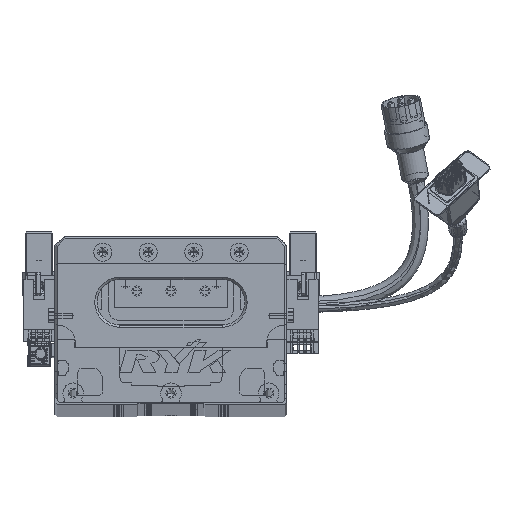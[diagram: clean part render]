
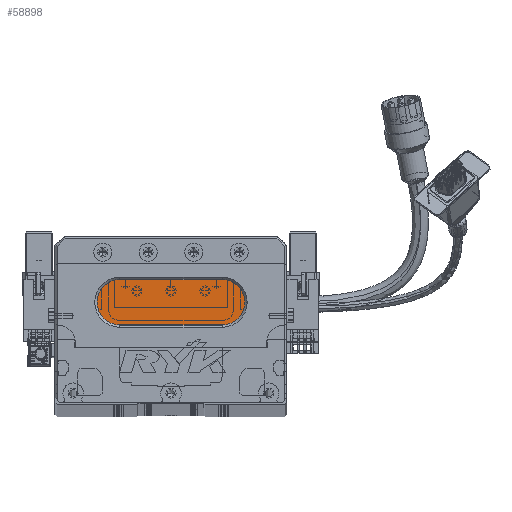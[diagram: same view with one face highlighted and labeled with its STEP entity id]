
A CAD part, top view. The second image highlights one B-rep face of the part: STEP entity #58898.
In plain terms, the highlighted planar face has unit normal (0, 0, 1) as drawn and (0, 0, -1) by its records, which use the part's own axes.
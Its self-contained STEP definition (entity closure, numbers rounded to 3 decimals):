
#264 = CARTESIAN_POINT ( 'NONE',  ( 18.5, 44., 13. ) ) ;
#323 = EDGE_LOOP ( 'NONE', ( #29394, #74563, #49118, #91849, #70341 ) ) ;
#1188 = CARTESIAN_POINT ( 'NONE',  ( 28.5, 54., 13. ) ) ;
#4758 = CARTESIAN_POINT ( 'NONE',  ( 73.5, 54., 13. ) ) ;
#5972 = VERTEX_POINT ( 'NONE', #23706 ) ;
#10723 = CIRCLE ( 'NONE', #30573, 10. ) ;
#15126 = VERTEX_POINT ( 'NONE', #17340 ) ;
#17024 = PLANE ( 'NONE',  #77251 ) ;
#17340 = CARTESIAN_POINT ( 'NONE',  ( 73.5, 34., 13. ) ) ;
#18327 = CIRCLE ( 'NONE', #59986, 10. ) ;
#20703 = DIRECTION ( 'NONE',  ( 0., 0., -1. ) ) ;
#21560 = LINE ( 'NONE', #42626, #75852 ) ;
#23706 = CARTESIAN_POINT ( 'NONE',  ( 28.5, 34., 13. ) ) ;
#24289 = FACE_OUTER_BOUND ( 'NONE', #323, .T. ) ;
#29289 = EDGE_CURVE ( 'NONE', #5972, #66964, #18327, .T. ) ;
#29394 = ORIENTED_EDGE ( 'NONE', *, *, #60890, .T. ) ;
#30573 = AXIS2_PLACEMENT_3D ( 'NONE', #62212, #20703, #91241 ) ;
#30908 = CIRCLE ( 'NONE', #32744, 10. ) ;
#32744 = AXIS2_PLACEMENT_3D ( 'NONE', #72479, #71802, #43337 ) ;
#34873 = EDGE_CURVE ( 'NONE', #61754, #80881, #21560, .T. ) ;
#37463 = DIRECTION ( 'NONE',  ( -1., 0., 0. ) ) ;
#38069 = DIRECTION ( 'NONE',  ( 0., 0., -1. ) ) ;
#42626 = CARTESIAN_POINT ( 'NONE',  ( 73.5, 54., 13. ) ) ;
#43337 = DIRECTION ( 'NONE',  ( -1., 0., 0. ) ) ;
#49118 = ORIENTED_EDGE ( 'NONE', *, *, #29289, .T. ) ;
#49838 = LINE ( 'NONE', #81543, #74177 ) ;
#55348 = CARTESIAN_POINT ( 'NONE',  ( 28.5, 44., 13. ) ) ;
#56573 = DIRECTION ( 'NONE',  ( 0., 0., -1. ) ) ;
#58327 = EDGE_CURVE ( 'NONE', #66964, #61754, #30908, .T. ) ;
#58833 = CARTESIAN_POINT ( 'NONE',  ( 73.5, 44., 13. ) ) ;
#58898 = ADVANCED_FACE ( 'NONE', ( #24289 ), #17024, .T. ) ;
#59986 = AXIS2_PLACEMENT_3D ( 'NONE', #55348, #56573, #91842 ) ;
#60890 = EDGE_CURVE ( 'NONE', #80881, #15126, #10723, .T. ) ;
#61754 = VERTEX_POINT ( 'NONE', #1188 ) ;
#62212 = CARTESIAN_POINT ( 'NONE',  ( 73.5, 44., 13. ) ) ;
#66964 = VERTEX_POINT ( 'NONE', #264 ) ;
#67039 = DIRECTION ( 'NONE',  ( -1., 0., 0. ) ) ;
#70341 = ORIENTED_EDGE ( 'NONE', *, *, #34873, .T. ) ;
#71802 = DIRECTION ( 'NONE',  ( 0., 0., -1. ) ) ;
#72479 = CARTESIAN_POINT ( 'NONE',  ( 28.5, 44., 13. ) ) ;
#74177 = VECTOR ( 'NONE', #67039, 1000. ) ;
#74563 = ORIENTED_EDGE ( 'NONE', *, *, #89332, .T. ) ;
#75852 = VECTOR ( 'NONE', #85901, 1000. ) ;
#77251 = AXIS2_PLACEMENT_3D ( 'NONE', #58833, #38069, #37463 ) ;
#80881 = VERTEX_POINT ( 'NONE', #4758 ) ;
#81543 = CARTESIAN_POINT ( 'NONE',  ( 73.5, 34., 13. ) ) ;
#85901 = DIRECTION ( 'NONE',  ( 1., 0., 0. ) ) ;
#89332 = EDGE_CURVE ( 'NONE', #15126, #5972, #49838, .T. ) ;
#91241 = DIRECTION ( 'NONE',  ( -1., 0., 0. ) ) ;
#91842 = DIRECTION ( 'NONE',  ( -1., 0., 0. ) ) ;
#91849 = ORIENTED_EDGE ( 'NONE', *, *, #58327, .T. ) ;
